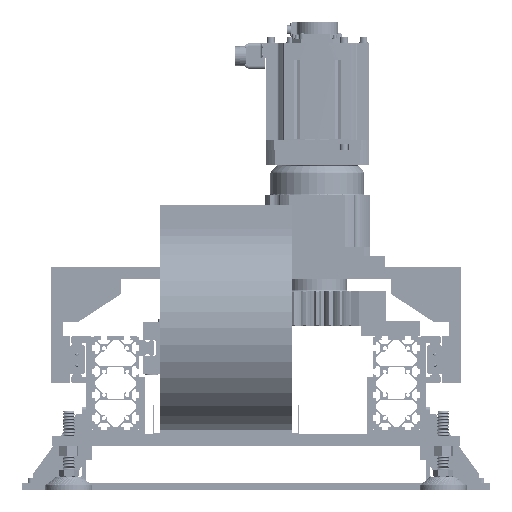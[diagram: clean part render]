
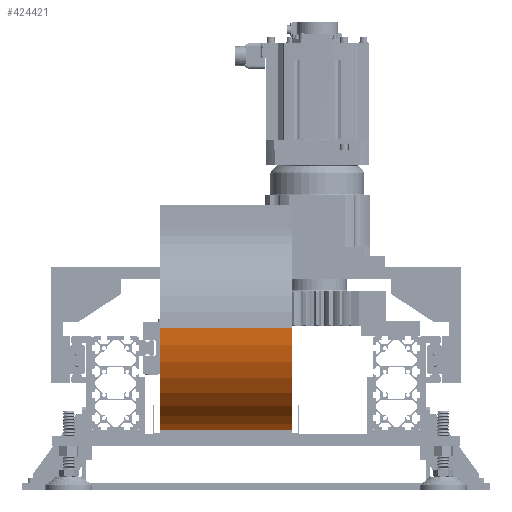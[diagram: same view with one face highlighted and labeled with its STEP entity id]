
A CAD part, left-side view. The second image highlights one B-rep face of the part: STEP entity #424421.
In plain terms, the highlighted cylindrical face has radius 179 mm (diameter 358 mm), a partial arc.
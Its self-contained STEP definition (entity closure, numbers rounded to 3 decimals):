
#4696 = DIRECTION ( 'NONE',  ( 0., 1., 0. ) ) ;
#10003 = EDGE_CURVE ( 'NONE', #178322, #109651, #287520, .T. ) ;
#19107 = VERTEX_POINT ( 'NONE', #219802 ) ;
#20118 = CARTESIAN_POINT ( 'NONE',  ( 261.994, -648.5, -103. ) ) ;
#20809 = EDGE_CURVE ( 'NONE', #304553, #109651, #423996, .T. ) ;
#28859 = CARTESIAN_POINT ( 'NONE',  ( 487.994, -469.5, -103. ) ) ;
#30328 = CARTESIAN_POINT ( 'NONE',  ( 487.994, -648.5, -103. ) ) ;
#35320 = AXIS2_PLACEMENT_3D ( 'NONE', #421733, #78809, #4696 ) ;
#35843 = CIRCLE ( 'NONE', #311610, 179. ) ;
#78809 = DIRECTION ( 'NONE',  ( 1., 0., 0. ) ) ;
#87086 = EDGE_LOOP ( 'NONE', ( #181807, #462307, #157473, #250470 ) ) ;
#89656 = EDGE_CURVE ( 'NONE', #19107, #304553, #35843, .T. ) ;
#109651 = VERTEX_POINT ( 'NONE', #391306 ) ;
#113983 = AXIS2_PLACEMENT_3D ( 'NONE', #304013, #486778, #343529 ) ;
#157473 = ORIENTED_EDGE ( 'NONE', *, *, #10003, .T. ) ;
#178322 = VERTEX_POINT ( 'NONE', #20118 ) ;
#179386 = DIRECTION ( 'NONE',  ( 0., 1., 0. ) ) ;
#181807 = ORIENTED_EDGE ( 'NONE', *, *, #89656, .F. ) ;
#186671 = DIRECTION ( 'NONE',  ( 1., 0., 0. ) ) ;
#196968 = DIRECTION ( 'NONE',  ( -1., 0., 0. ) ) ;
#219802 = CARTESIAN_POINT ( 'NONE',  ( 487.994, -648.5, -103. ) ) ;
#220292 = DIRECTION ( 'NONE',  ( -1., 0., 0. ) ) ;
#250470 = ORIENTED_EDGE ( 'NONE', *, *, #20809, .F. ) ;
#252471 = LINE ( 'NONE', #30328, #381142 ) ;
#260214 = VECTOR ( 'NONE', #196968, 1000. ) ;
#264557 = CYLINDRICAL_SURFACE ( 'NONE', #113983, 179. ) ;
#266103 = CARTESIAN_POINT ( 'NONE',  ( 487.994, -509.496, -277.475 ) ) ;
#287520 = CIRCLE ( 'NONE', #35320, 179. ) ;
#304013 = CARTESIAN_POINT ( 'NONE',  ( 487.994, -469.5, -103. ) ) ;
#304553 = VERTEX_POINT ( 'NONE', #394381 ) ;
#311610 = AXIS2_PLACEMENT_3D ( 'NONE', #28859, #186671, #179386 ) ;
#343529 = DIRECTION ( 'NONE',  ( 0., -1., 0. ) ) ;
#380583 = FACE_OUTER_BOUND ( 'NONE', #87086, .T. ) ;
#381142 = VECTOR ( 'NONE', #220292, 1000. ) ;
#391306 = CARTESIAN_POINT ( 'NONE',  ( 261.994, -509.496, -277.475 ) ) ;
#394381 = CARTESIAN_POINT ( 'NONE',  ( 487.994, -509.496, -277.475 ) ) ;
#421733 = CARTESIAN_POINT ( 'NONE',  ( 261.994, -469.5, -103. ) ) ;
#423996 = LINE ( 'NONE', #266103, #260214 ) ;
#424421 = ADVANCED_FACE ( 'NONE', ( #380583 ), #264557, .T. ) ;
#462307 = ORIENTED_EDGE ( 'NONE', *, *, #470354, .T. ) ;
#470354 = EDGE_CURVE ( 'NONE', #19107, #178322, #252471, .T. ) ;
#486778 = DIRECTION ( 'NONE',  ( -1., 0., 0. ) ) ;
